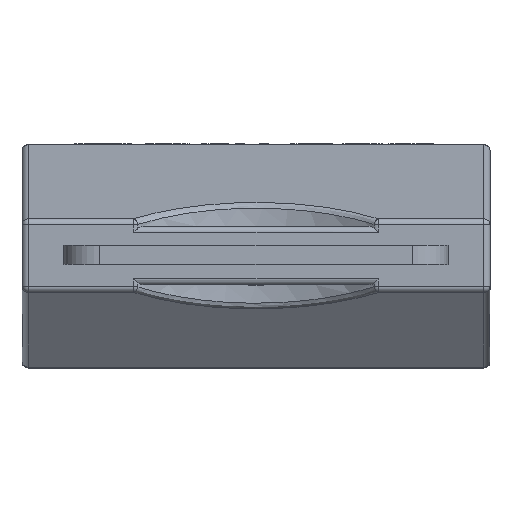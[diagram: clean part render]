
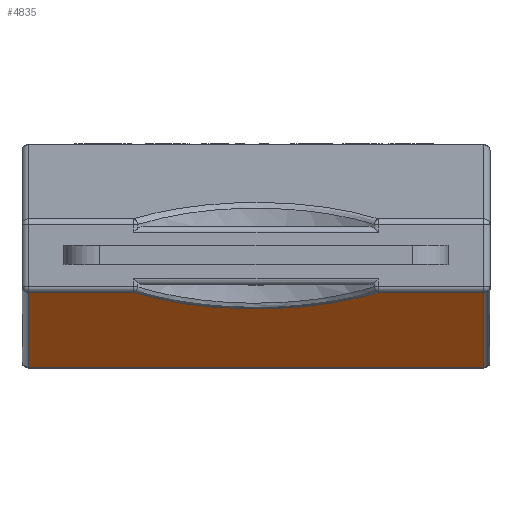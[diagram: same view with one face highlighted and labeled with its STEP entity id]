
A CAD part, top view. The second image highlights one B-rep face of the part: STEP entity #4835.
In plain terms, the highlighted planar face has unit normal (0, -0.942, 0.336) as drawn and (0, 0.336, -0.942) by its records, which use the part's own axes.
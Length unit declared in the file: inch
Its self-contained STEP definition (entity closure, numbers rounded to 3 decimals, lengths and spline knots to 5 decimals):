
#31=ELLIPSE('',#5217,0.32306,0.30424);
#413=PLANE('',#5241);
#687=FACE_OUTER_BOUND('',#977,.T.);
#977=EDGE_LOOP('',(#4486,#4487,#4488,#4489,#4490,#4491));
#1382=LINE('',#8881,#1806);
#1384=LINE('',#8884,#1808);
#1388=LINE('',#8908,#1812);
#1392=LINE('',#8917,#1816);
#1396=LINE('',#8926,#1820);
#1806=VECTOR('',#6254,0.3937);
#1808=VECTOR('',#6258,0.3937);
#1812=VECTOR('',#6266,0.3937);
#1816=VECTOR('',#6276,0.3937);
#1820=VECTOR('',#6286,0.3937);
#2304=VERTEX_POINT('',#8514);
#2307=VERTEX_POINT('',#8521);
#2309=VERTEX_POINT('',#8526);
#2316=VERTEX_POINT('',#8542);
#2320=VERTEX_POINT('',#8585);
#2327=VERTEX_POINT('',#8606);
#3056=EDGE_CURVE('',#2320,#2327,#1382,.T.);
#3058=EDGE_CURVE('',#2327,#2316,#1384,.T.);
#3064=EDGE_CURVE('',#2309,#2320,#1388,.T.);
#3069=EDGE_CURVE('',#2316,#2307,#1392,.T.);
#3074=EDGE_CURVE('',#2304,#2309,#1396,.T.);
#3080=EDGE_CURVE('',#2307,#2304,#31,.T.);
#4486=ORIENTED_EDGE('',*,*,#3056,.F.);
#4487=ORIENTED_EDGE('',*,*,#3064,.F.);
#4488=ORIENTED_EDGE('',*,*,#3074,.F.);
#4489=ORIENTED_EDGE('',*,*,#3080,.F.);
#4490=ORIENTED_EDGE('',*,*,#3069,.F.);
#4491=ORIENTED_EDGE('',*,*,#3058,.F.);
#4835=ADVANCED_FACE('',(#687),#413,.T.);
#5217=AXIS2_PLACEMENT_3D('',#8979,#6292,#6293);
#5241=AXIS2_PLACEMENT_3D('',#9031,#6346,#6347);
#6254=DIRECTION('',(1.,0.,0.));
#6258=DIRECTION('',(0.,0.942,0.336));
#6266=DIRECTION('',(0.,-0.942,-0.336));
#6276=DIRECTION('',(-1.,0.,0.));
#6286=DIRECTION('',(-1.,0.,0.));
#6292=DIRECTION('center_axis',(0.,0.336,
-0.942));
#6293=DIRECTION('ref_axis',(0.,-0.942,-0.336));
#6346=DIRECTION('center_axis',(0.,0.336,
-0.942));
#6347=DIRECTION('ref_axis',(-1.,0.,0.));
#8514=CARTESIAN_POINT('',(-0.20026,0.56817,-0.06044));
#8521=CARTESIAN_POINT('',(0.20026,0.56817,-0.06044));
#8526=CARTESIAN_POINT('',(-0.37386,0.56817,-0.06044));
#8542=CARTESIAN_POINT('',(0.37386,0.56817,-0.06044));
#8585=CARTESIAN_POINT('',(-0.37386,0.22643,-0.18249));
#8606=CARTESIAN_POINT('',(0.37386,0.22643,-0.18249));
#8881=CARTESIAN_POINT('',(0.09596,0.22643,-0.18249));
#8884=CARTESIAN_POINT('',(0.37386,-0.01328,-0.2681));
#8908=CARTESIAN_POINT('',(-0.37386,0.4965,-0.08604));
#8917=CARTESIAN_POINT('',(0.28789,0.56817,-0.06044));
#8926=CARTESIAN_POINT('',(0.28789,0.56817,-0.06044));
#8979=CARTESIAN_POINT('Origin',(0.,0.7972,
0.02136));
#9031=CARTESIAN_POINT('Origin',(0.19193,0.3998,-0.12057));
